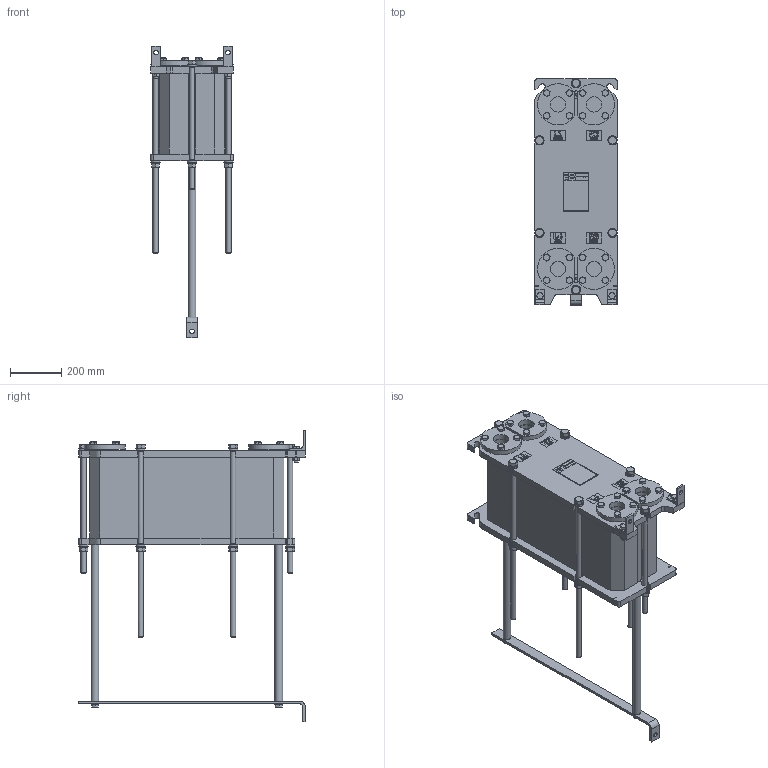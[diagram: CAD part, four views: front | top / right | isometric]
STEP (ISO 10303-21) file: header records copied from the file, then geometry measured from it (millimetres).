
FILE_DESCRIPTION (( 'STEP AP214' ), '1' );
FILE_NAME ('ÏÒ SX50 ðåä 4 ê ñèãìà 111...180.STEP', '2021-04-03T22:39:35', ( '' ), ( '' ), 'SwSTEP 2.0', 'SolidWorks 2018', '' );
FILE_SCHEMA (( 'AUTOMOTIVE_DESIGN' ));
Length unit declared in the file: millimetre
Products named in the file (3): ÏÒ SX50 ðåä 4 ê ñèãìà 111...180; ÏÒ SX50 ðåä 4 ê ñèãìà1; ÏÒ SX50 ðåä 4 ê ñèãìà2 111...180
Assembly tree (2 placements, depth 2):
  ÏÒ SX50 ðåä 4 ê ñèãìà 111...180
    ÏÒ SX50 ðåä 4 ê ñèãìà2 111...180
    ÏÒ SX50 ðåä 4 ê ñèãìà1
Bounding box: 320 x 880 x 1135 mm (x, y, z)
Volume: 73176249.1 mm3; surface area: 3352228.6 mm2
Topology: 28 solids, 34 shells, 2016 faces, 4906 edges, 3137 vertices
Faces by surface type: plane 1036, cone 430, bspline 275, cylinder 241, torus 34
Full cylindrical faces by diameter (mm): 16 x44, 17 x4, 18 x25, 20 x12, 21 x12, 27 x12, 29.48 x2, 30 x8, 36 x12, 60 x8, 60.01 x4, 60.2 x4, 72.4 x4
Entity records: 89000 total; most frequent: CARTESIAN_POINT 23698, ORIENTED_EDGE 9012, DIRECTION 7808, EDGE_CURVE 4506, VERTEX_POINT 3052, AXIS2_PLACEMENT_3D 2706, EDGE_LOOP 2616, VECTOR 2396
